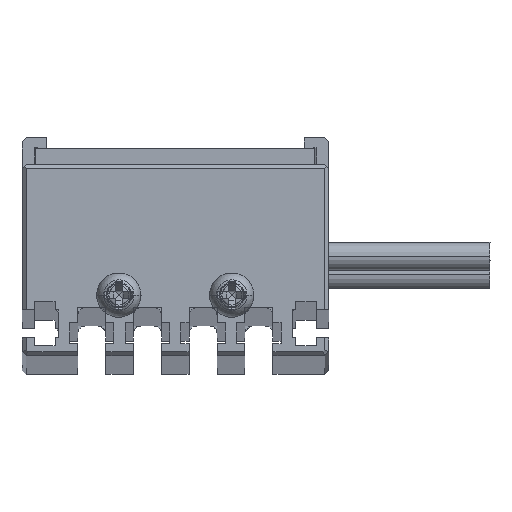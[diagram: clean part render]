
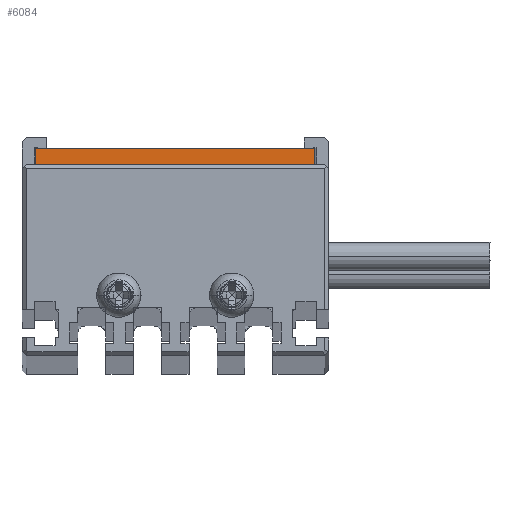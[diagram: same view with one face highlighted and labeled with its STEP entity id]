
A CAD part, top view. The second image highlights one B-rep face of the part: STEP entity #6084.
In plain terms, the highlighted planar face has unit normal (0, 0, 1).
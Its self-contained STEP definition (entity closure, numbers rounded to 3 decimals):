
#2197=DIRECTION('',(-1.,0.,0.));
#2198=VECTOR('',#2197,34.6);
#2199=CARTESIAN_POINT('',(17.3,15.7,658.5));
#2200=LINE('',#2199,#2198);
#2201=DIRECTION('',(0.,1.,0.));
#2202=VECTOR('',#2201,2.);
#2203=CARTESIAN_POINT('',(17.3,13.7,658.5));
#2204=LINE('',#2203,#2202);
#2205=DIRECTION('',(1.,0.,0.));
#2206=VECTOR('',#2205,34.6);
#2207=CARTESIAN_POINT('',(-17.3,13.7,658.5));
#2208=LINE('',#2207,#2206);
#2209=DIRECTION('',(0.,-1.,0.));
#2210=VECTOR('',#2209,2.);
#2211=CARTESIAN_POINT('',(-17.3,15.7,658.5));
#2212=LINE('',#2211,#2210);
#2481=CARTESIAN_POINT('',(17.3,15.7,658.5));
#2482=CARTESIAN_POINT('',(-17.3,15.7,658.5));
#2483=VERTEX_POINT('',#2481);
#2484=VERTEX_POINT('',#2482);
#2485=CARTESIAN_POINT('',(-17.3,13.7,658.5));
#2486=VERTEX_POINT('',#2485);
#2487=CARTESIAN_POINT('',(17.3,13.7,658.5));
#2488=VERTEX_POINT('',#2487);
#6073=CARTESIAN_POINT('',(0.,0.,658.5));
#6074=DIRECTION('',(0.,0.,1.));
#6075=DIRECTION('',(0.,-1.,0.));
#6076=AXIS2_PLACEMENT_3D('',#6073,#6074,#6075);
#6077=PLANE('',#6076);
#6078=ORIENTED_EDGE('',*,*,#3696,.F.);
#6079=ORIENTED_EDGE('',*,*,#6063,.F.);
#6080=ORIENTED_EDGE('',*,*,#3626,.F.);
#6081=ORIENTED_EDGE('',*,*,#3664,.F.);
#6082=EDGE_LOOP('',(#6078,#6079,#6080,#6081));
#6083=FACE_OUTER_BOUND('',#6082,.F.);
#3626=EDGE_CURVE('',#2486,#2488,#2208,.T.);
#3664=EDGE_CURVE('',#2484,#2486,#2212,.T.);
#3696=EDGE_CURVE('',#2483,#2484,#2200,.T.);
#6063=EDGE_CURVE('',#2488,#2483,#2204,.T.);
#6084=ADVANCED_FACE('',(#6083),#6077,.T.);
